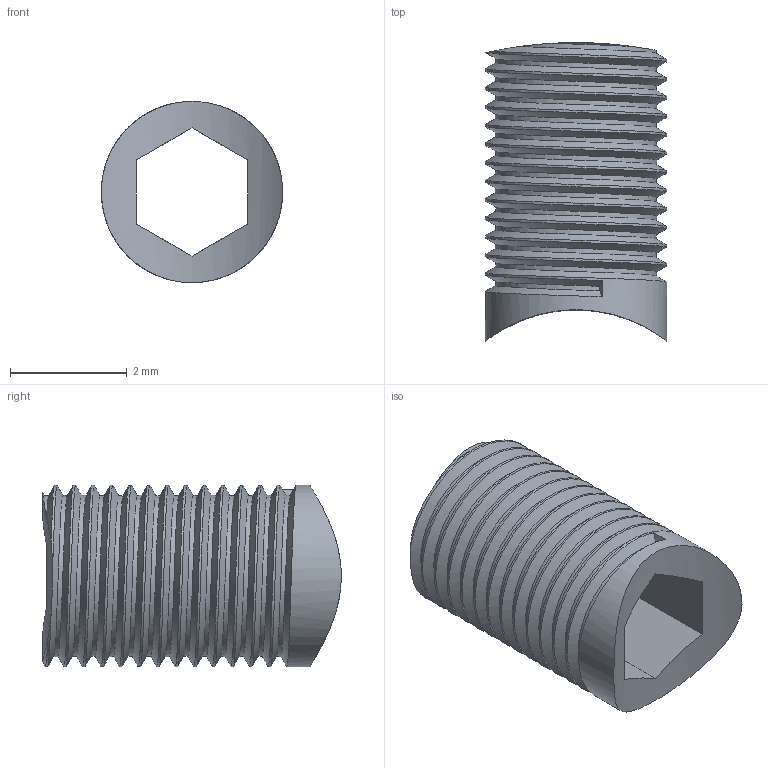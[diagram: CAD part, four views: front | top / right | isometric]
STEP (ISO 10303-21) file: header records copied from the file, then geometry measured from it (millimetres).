
FILE_DESCRIPTION(/* description */ ('STEP AP242 Edition 2','CAx-IF Rec.Pracs.---Representation and Presentation of Product Manufacturing Information (PMI)---4.0---2014-10-13','CAx-IF Rec.Pracs.---3D Tessellated Geometry---0.4---2014-09-14','2;1','CAx-IF Rec.Pracs.---User Defined Attributes---1.5---2016-08-15'),/* implementation_level */ '2;1');
FILE_NAME(/* name */ 'Final Build - Timing Pulley screw (2)',/* time_stamp */ '2026-08-31T23:26:27Z',/* author */ (''),/* organization */ (''),/* preprocessor_version */ 'ST-DEVELOPER v20',/* originating_system */ 'ONSHAPE BY PTC INC, 1.220',/* authorisation */ ' ');
FILE_SCHEMA (('AP242_MANAGED_MODEL_BASED_3D_ENGINEERING_MIM_LF { 1 0 10303 442 3 1 4 }'));
Length unit declared in the file: metre
Products named in the file (1): Timing Pulley screw
Bounding box: 3.1 x 5.11 x 3.1 mm (x, y, z)
Volume: 16.6 mm3; surface area: 105.5 mm2
Topology: 1 solids, 1 shells, 29 faces, 83 edges, 56 vertices
Faces by surface type: cylinder 18, plane 7, bspline 2, cone 2
Full cylindrical faces by diameter (mm): 3.1 x13
Entity records: 2363 total; most frequent: CARTESIAN_POINT 1970, ORIENTED_EDGE 86, DIRECTION 60, EDGE_CURVE 43, VERTEX_POINT 30, AXIS2_PLACEMENT_3D 23, B_SPLINE_CURVE_WITH_KNOTS 21, EDGE_LOOP 19
